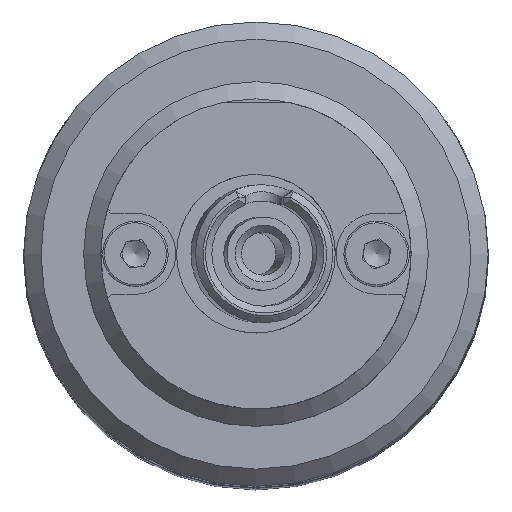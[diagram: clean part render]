
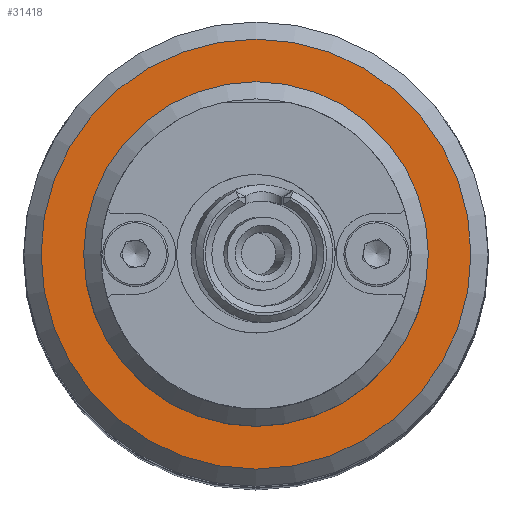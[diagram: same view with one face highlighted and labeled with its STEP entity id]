
A CAD part, top view. The second image highlights one B-rep face of the part: STEP entity #31418.
In plain terms, the highlighted planar face has unit normal (0, 0, 1).
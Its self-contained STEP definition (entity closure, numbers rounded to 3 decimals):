
#987 = CIRCLE ( 'NONE', #10305, 12.475 ) ;
#3105 = DIRECTION ( 'NONE',  ( 1., 0., 0. ) ) ;
#3790 = EDGE_LOOP ( 'NONE', ( #7161 ) ) ;
#7161 = ORIENTED_EDGE ( 'NONE', *, *, #50841, .F. ) ;
#10305 = AXIS2_PLACEMENT_3D ( 'NONE', #26272, #18386, #26557 ) ;
#14888 = CIRCLE ( 'NONE', #38145, 10. ) ;
#18386 = DIRECTION ( 'NONE',  ( 0., 0., -1. ) ) ;
#20613 = VERTEX_POINT ( 'NONE', #47699 ) ;
#21475 = CARTESIAN_POINT ( 'NONE',  ( 10., 0., 115.07 ) ) ;
#26272 = CARTESIAN_POINT ( 'NONE',  ( 0., 0., 115.07 ) ) ;
#26557 = DIRECTION ( 'NONE',  ( 0., 1., 0. ) ) ;
#31418 = ADVANCED_FACE ( 'NONE', ( #38921, #34260 ), #43301, .F. ) ;
#33124 = DIRECTION ( 'NONE',  ( 0., 0., -1. ) ) ;
#33429 = CARTESIAN_POINT ( 'NONE',  ( 0., 0., 115.07 ) ) ;
#34260 = FACE_BOUND ( 'NONE', #50750, .T. ) ;
#38145 = AXIS2_PLACEMENT_3D ( 'NONE', #33429, #43039, #3105 ) ;
#38921 = FACE_OUTER_BOUND ( 'NONE', #3790, .T. ) ;
#39810 = EDGE_CURVE ( 'NONE', #57315, #57315, #14888, .T. ) ;
#41430 = AXIS2_PLACEMENT_3D ( 'NONE', #56706, #33124, #48821 ) ;
#43039 = DIRECTION ( 'NONE',  ( 0., 0., -1. ) ) ;
#43301 = PLANE ( 'NONE',  #41430 ) ;
#45252 = ORIENTED_EDGE ( 'NONE', *, *, #39810, .T. ) ;
#47699 = CARTESIAN_POINT ( 'NONE',  ( 0., 12.475, 115.07 ) ) ;
#48821 = DIRECTION ( 'NONE',  ( 0., 1., 0. ) ) ;
#50750 = EDGE_LOOP ( 'NONE', ( #45252 ) ) ;
#50841 = EDGE_CURVE ( 'NONE', #20613, #20613, #987, .T. ) ;
#56706 = CARTESIAN_POINT ( 'NONE',  ( 10., 0., 115.07 ) ) ;
#57315 = VERTEX_POINT ( 'NONE', #21475 ) ;
